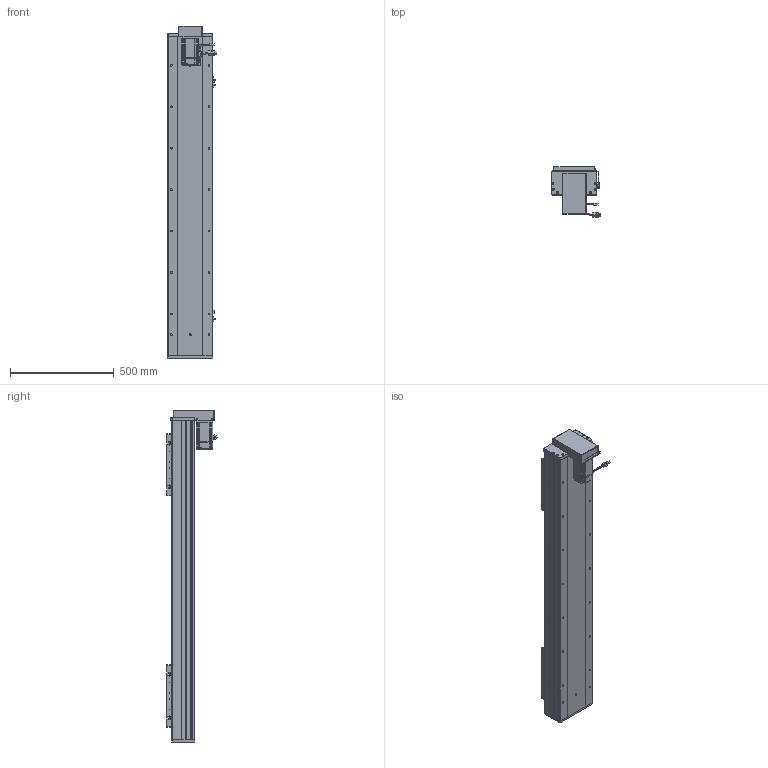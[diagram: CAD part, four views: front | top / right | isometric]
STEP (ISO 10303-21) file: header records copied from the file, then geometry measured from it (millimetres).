
FILE_DESCRIPTION (( 'STEP AP203' ), '1' );
FILE_NAME ('RY220F-L2525-800-BK-邧嶺.SLDASM_1100.step', '2022-08-06T08:07:52', ( '' ), ( '' ), 'SwSTEP 2.0', 'SolidWorks 2016', '' );
FILE_SCHEMA (( 'CONFIG_CONTROL_DESIGN' ));
Length unit declared in the file: millimetre
Products named in the file (15): RY220F-L2525-800-BK-邧嶺.SLDASM_1100; RY220F-蛌殏奻裔啣-800_1100; 侐源滅袉蝶; RY220F綴裔啣; RY220狟殏萇儂欶; RY220F-672覜茼んえ; 怢湛750W_ECMA-CX0807ES; RY220F蛌殏菁釱-800-邧嶺_1100; 覜茼ん672; RY220F-祥凄詩湍-蛌殏-800_1100; RY220狟殏萇儂假蚾啣; RY220F-詩湍揤踡輸; RY220F-滅鳥奻裔; RY220F臏賑釱25-32佪裝; 滅袉蝶18-24
Assembly tree (24 placements, depth 2):
  RY220F-L2525-800-BK-邧嶺.SLDASM_1100
    RY220F蛌殏菁釱-800-邧嶺_1100
    RY220F-蛌殏奻裔啣-800_1100  x2
    怢湛750W_ECMA-CX0807ES
    RY220F臏賑釱25-32佪裝  x2
    RY220F-滅鳥奻裔  x2
    滅袉蝶18-24  x3
    RY220F綴裔啣
    RY220F-祥凄詩湍-蛌殏-800_1100
    RY220F-詩湍揤踡輸  x2
    覜茼ん672  x3
    RY220F-672覜茼んえ  x2
    侐源滅袉蝶  x2
    RY220狟殏萇儂假蚾啣
    RY220狟殏萇儂欶
Bounding box: 237.27 x 247.24 x 1603 mm (x, y, z)
Volume: 15255759.9 mm3; surface area: 3950855.1 mm2
Topology: 25 solids, 25 shells, 2791 faces, 7582 edges, 4685 vertices
Faces by surface type: cylinder 1242, plane 1062, cone 416, bspline 45, sphere 16, torus 10
Entity records: 69225 total; most frequent: CARTESIAN_POINT 18751, ORIENTED_EDGE 10202, DIRECTION 9913, EDGE_CURVE 5101, AXIS2_PLACEMENT_3D 3514, VERTEX_POINT 3301, LINE 2885, VECTOR 2885
